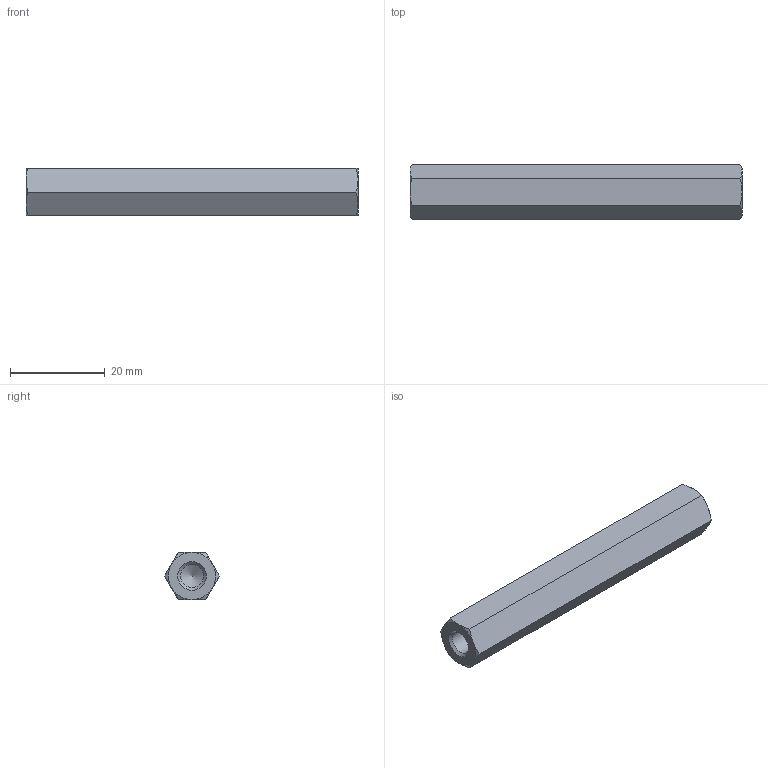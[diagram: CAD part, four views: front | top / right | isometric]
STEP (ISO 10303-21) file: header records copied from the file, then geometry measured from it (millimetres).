
FILE_DESCRIPTION( ( 'STEP AP203' ), '1' );
FILE_NAME( 'C:/Temp/Ganter_Step_05_03_2020/data/3_2/gn6220/gn6220_ni/Stainless Steel-Spacer GN 6220-NI-M6-70-A.stp', '2020-03-13T05:43:04', ( 'License CC BY-ND 4.0' ), ( 'CADENAS' ), ' ', 'PARTsolutions', ' ' );
FILE_SCHEMA( ( 'CONFIG_CONTROL_DESIGN' ) );
Length unit declared in the file: millimetre
Products named in the file (1): _Stainless Steel-Spacer GN 6220-NI-M6-70-A
Bounding box: 70 x 11.55 x 10 mm (x, y, z)
Volume: 5387.1 mm3; surface area: 3115.5 mm2
Topology: 1 solids, 1 shells, 26 faces, 57 edges, 33 vertices
Faces by surface type: cone 16, plane 8, cylinder 2
Full cylindrical faces by diameter (mm): 4.917 x2
Entity records: 766 total; most frequent: CARTESIAN_POINT 227, DIRECTION 96, ORIENTED_EDGE 96, EDGE_CURVE 48, AXIS2_PLACEMENT_3D 45, EDGE_LOOP 32, VERTEX_POINT 32, FACE_OUTER_BOUND 28
